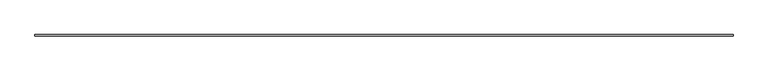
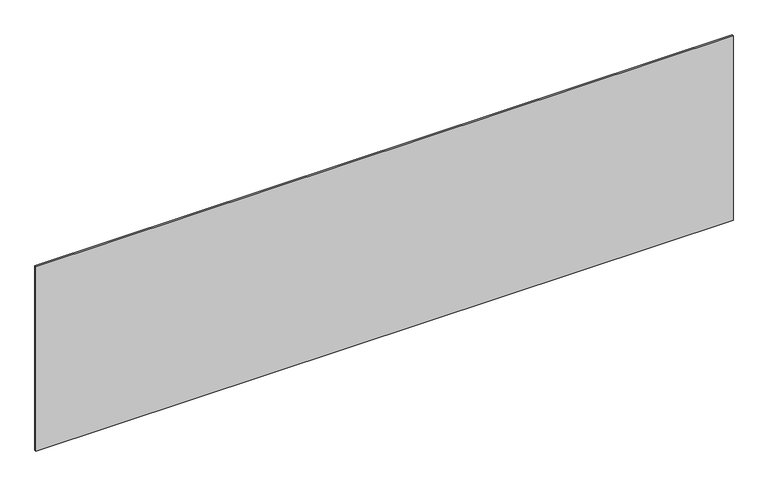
"""IFC4 building model written with IfcOpenShell, lengths in millimetres: plate geometry, システム パネル : 標準."""

from ifc_helpers import new_model, si_unit, origin, origin_with_axes, place, context, project, spatial, polyline, outline, extrude, source, transform, mapped, element, save


def plate_eb713791(model_context):
    return source(origin(), model_context, "Body", "SweptSolid", [
        extrude(outline(polyline([(2264.1666667, -5.0), (-2264.1666667, -5.0), (-2264.1666667, 5.0), (2264.1666667, 5.0), (2264.1666667, -5.0)])), origin_with_axes(), (0.0, 0.0, 1.0), 1265.8860683),
    ])


if __name__ == "__main__":
    model = new_model("IFC4")
    model_context = context("Model", 3, world=origin())
    ifc_project = project(units=[si_unit("LENGTHUNIT", "METRE", prefix="MILLI")], contexts=[model_context])
    site = spatial("IfcSite", under=ifc_project)
    building = spatial("IfcBuilding", under=site)
    placement = place(None, origin())
    plate_shape = plate_eb713791(model_context)
    element("IfcPlate", 1, ObjectType="システム パネル : 標準", at=placement, inside=building, context=model_context, shape_type="MappedRepresentation", body=[
        mapped(plate_shape, transform((0.0, 0.0, 0.0), x_axis=(1.0, 0.0, 0.0), y_axis=(0.0, 1.0, 0.0), z_axis=(0.0, 0.0, 1.0))),
    ])
    save(model, "model.ifc")
